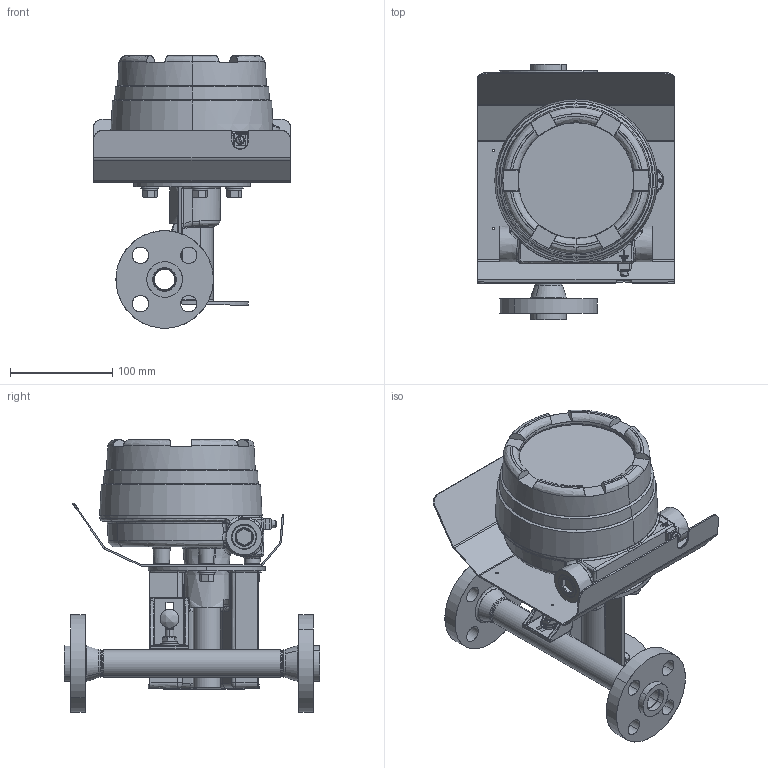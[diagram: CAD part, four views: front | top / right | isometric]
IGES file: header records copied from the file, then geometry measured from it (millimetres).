
Start section: SolidWorks IGES file using analytic representation for surfaces
Global section: file name: C:\Users\jodonnell\OneDrive - Illinois Tool Works, Inc\Desktop\3809G-A-07-H-5-A-0.IGS; native system: SolidWorks 2023; preprocessor: SolidWorks 2023; author: JODonnell; date: 250908.121340; units: inch
Bounding box: 192.53 x 250 x 266.27 mm (x, y, z)
Surface area: 509168.9 mm2 (no closed solid volume)
Topology: 0 solids, 0 shells, 1369 faces, 16997 edges, 16931 vertices
Faces by surface type: revolution 742, bspline 627
